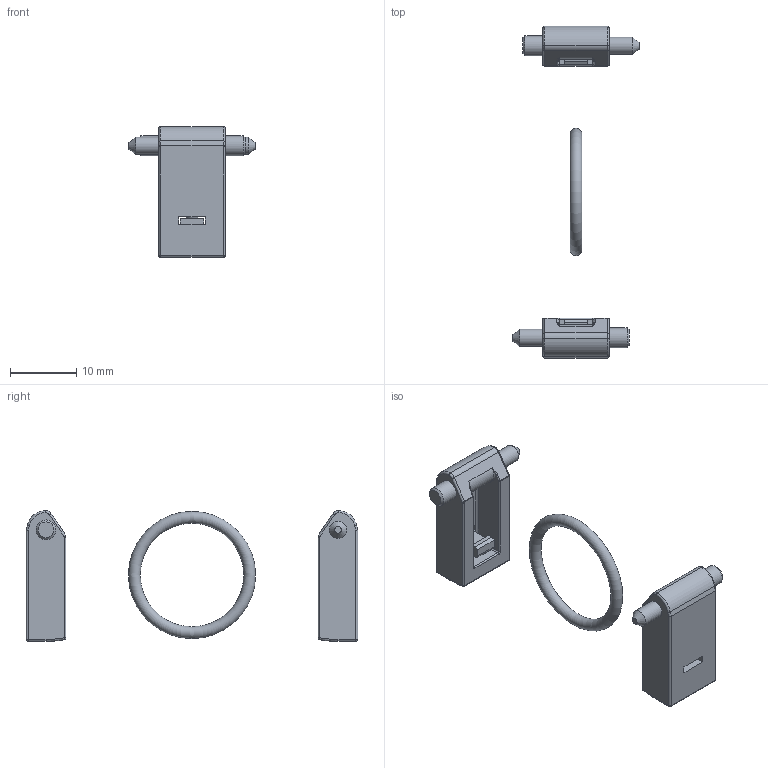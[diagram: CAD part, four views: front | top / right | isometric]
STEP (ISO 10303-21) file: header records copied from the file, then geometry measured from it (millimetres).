
FILE_DESCRIPTION((''),'2;1');
FILE_NAME('K:\ZEICHNG\webgrafik.intern\Air-Techniques Befestigungen und Behälter\step\KP.00.stp','2013-06-21T09:26:38',('RJanz'),(''),'Autodesk Inventor 2013','Autodesk Inventor 2013','');
FILE_SCHEMA(('CONFIG_CONTROL_DESIGN'));
Length unit declared in the file: millimetre
Products named in the file (1): Bauteil1
Bounding box: 19 x 50 x 19.7 mm (x, y, z)
Volume: 1892.2 mm3; surface area: 2152.9 mm2
Topology: 3 solids, 3 shells, 177 faces, 414 edges, 233 vertices
Faces by surface type: cylinder 70, plane 50, bspline 32, torus 13, sphere 8, cone 4
Full cylindrical faces by diameter (mm): 2.6 x2, 3 x2
Entity records: 5790 total; most frequent: CARTESIAN_POINT 1633, DIRECTION 856, ORIENTED_EDGE 788, EDGE_CURVE 394, AXIS2_PLACEMENT_3D 332, VERTEX_POINT 233, EDGE_LOOP 193, VECTOR 192
